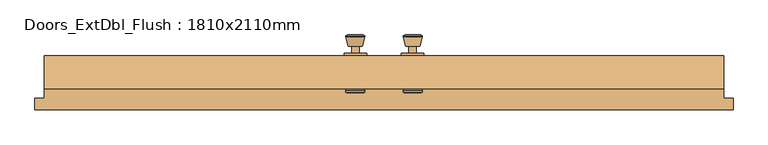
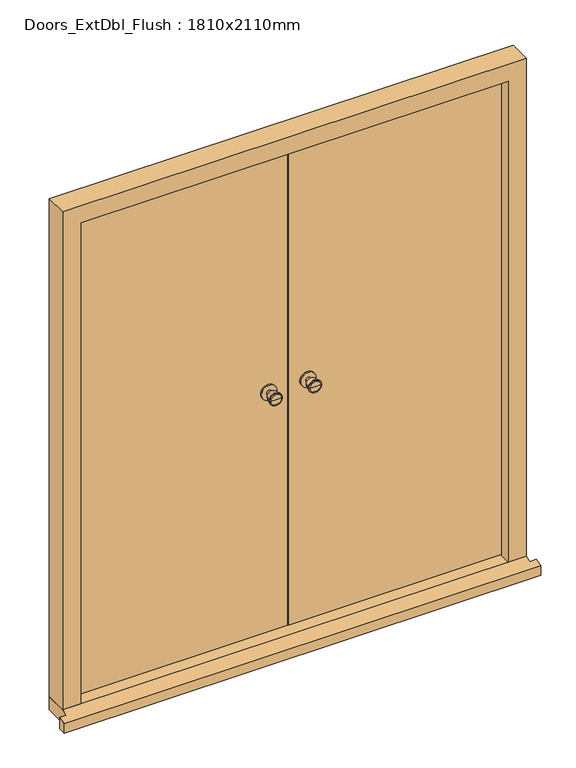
"""IFC4 building model written with IfcOpenShell, lengths in millimetres: door geometry, Doors_ExtDbl_Flush : 1810x2110mm."""

from ifc_helpers import new_model, si_unit, point, frame, frame_2d, origin, place, context, project, spatial, polyline, circle_curve, trimmed, segment, composite_curve, outline, extrude, faceted_brep, source, transform, mapped, element, save
from ifc_brep_helpers import plane_surface, cylinder_surface, revolved_surface, advanced_brep


def doors_extdbl_flush_1810x2110mm_33a89c57(model_context):
    return source(origin(), model_context, "Body", "SolidModel", [
        advanced_brep(
        [(-76.5, -36.5, 1050.0), (-86.5, -36.5, 1050.0), (-66.5, -36.5, 1050.0), (-96.9758676, 12.5, 1050.0), (-76.5, 12.5, 1050.0), (-56.0241324, 12.5, 1050.0), (-101.5, 10.6721319, 1050.0), (-51.5, 10.6721319, 1050.0), (-101.5, 7.2084537, 1050.0), (-51.5, 7.2084537, 1050.0), (-95.136236, -17.5, 1050.0), (-57.863764, -17.5, 1050.0), (-86.5, -17.5, 1050.0), (-66.5, -17.5, 1050.0)],
        [
            (0, 1),
            (1, 2, circle_curve(frame((-76.5, -36.5, 1050.0), z_axis=(0.0, -1.0, 0.0), x_axis=(1.0, 0.0, 0.0)), 10.0)),
            (2, 0),
            (2, 1, circle_curve(frame((-76.5, -36.5, 1050.0), z_axis=(0.0, -1.0, 0.0), x_axis=(1.0, 0.0, 0.0)), 10.0)),
            (3, 4),
            (4, 5),
            (5, 3, circle_curve(frame((-76.5, 12.5, 1050.0), z_axis=(0.0, 1.0, 0.0), x_axis=(1.0, 0.0, 0.0)), 20.4758676)),
            (3, 5, circle_curve(frame((-76.5, 12.5, 1050.0), z_axis=(0.0, 1.0, 0.0), x_axis=(1.0, 0.0, 0.0)), 20.4758676)),
            (6, 3),
            (5, 7),
            (7, 6, circle_curve(frame((-76.5, 10.6721319, 1050.0), z_axis=(0.0, 1.0, 0.0), x_axis=(1.0, 0.0, 0.0)), 25.0)),
            (6, 7, circle_curve(frame((-76.5, 10.6721319, 1050.0), z_axis=(0.0, 1.0, 0.0), x_axis=(1.0, 0.0, 0.0)), 25.0)),
            (8, 6),
            (7, 9),
            (9, 8, circle_curve(frame((-76.5, 7.2084537, 1050.0), z_axis=(0.0, 1.0, 0.0), x_axis=(1.0, 0.0, 0.0)), 25.0)),
            (8, 9, circle_curve(frame((-76.5, 7.2084537, 1050.0), z_axis=(0.0, 1.0, 0.0), x_axis=(1.0, 0.0, 0.0)), 25.0)),
            (10, 8),
            (9, 11),
            (11, 10, circle_curve(frame((-76.5, -17.5, 1050.0), z_axis=(0.0, 1.0, 0.0), x_axis=(1.0, 0.0, 0.0)), 18.636236)),
            (10, 11, circle_curve(frame((-76.5, -17.5, 1050.0), z_axis=(0.0, 1.0, 0.0), x_axis=(1.0, 0.0, 0.0)), 18.636236)),
            (12, 10),
            (11, 13),
            (13, 12, circle_curve(frame((-76.5, -17.5, 1050.0), z_axis=(0.0, 1.0, 0.0), x_axis=(1.0, 0.0, 0.0)), 10.0)),
            (12, 13, circle_curve(frame((-76.5, -17.5, 1050.0), z_axis=(0.0, 1.0, 0.0), x_axis=(1.0, 0.0, 0.0)), 10.0)),
            (1, 12),
            (13, 2),
        ],
        [
            plane_surface(frame((-76.5, -36.5, 1050.0), z_axis=(0.0, -1.0, 0.0), x_axis=(1.0, 0.0, 0.0))),
            plane_surface(frame((-76.5, 12.5, 1050.0), z_axis=(0.0, 1.0, 0.0), x_axis=(1.0, 0.0, 0.0))),
            revolved_surface(polyline([(-56.0241324, 12.5, 1050.0), (-51.5, 10.6721319, 1050.0)]), (-76.5, -36.5, 1050.0), (0.0, -1.0, 0.0)),
            cylinder_surface(frame((-76.5, -36.5, 1050.0), z_axis=(0.0, -1.0, 0.0), x_axis=(1.0, 0.0, 0.0)), 25.0),
            revolved_surface(polyline([(-51.5, 7.2084537, 1050.0), (-57.863764, -17.5, 1050.0)]), (-76.5, -36.5, 1050.0), (0.0, -1.0, 0.0)),
            plane_surface(frame((-76.5, -17.5, 1050.0), z_axis=(0.0, -1.0, 0.0), x_axis=(1.0, 0.0, 0.0))),
            cylinder_surface(frame((-76.5, -36.5, 1050.0), z_axis=(0.0, -1.0, 0.0), x_axis=(1.0, 0.0, 0.0)), 10.0),
        ],
        [
            (0, [[1, 2, 3]]),
            (0, [[-3, 4, -1]]),
            (1, [[5, 6, 7]]),
            (1, [[-6, -5, 8]]),
            (2, [[9, -7, 10, 11]]),
            (2, [[-10, -8, -9, 12]]),
            (3, [[13, -11, 14, 15]]),
            (3, [[-14, -12, -13, 16]]),
            (4, [[17, -15, 18, 19]]),
            (4, [[-18, -16, -17, 20]]),
            (5, [[21, -19, 22, 23]]),
            (5, [[-22, -20, -21, 24]]),
            (6, [[25, -23, 26, -2]]),
            (6, [[-26, -24, -25, -4]]),
        ],
    ),
        extrude(outline(composite_curve([segment(trimmed(circle_curve(frame_2d((1050.0, -76.5)), 30.0), [point((1050.0, -46.5))], [point((1050.0, -106.5))], False, "CARTESIAN"), True, "CONTINUOUS"), segment(trimmed(circle_curve(frame_2d((1050.0, -76.5)), 30.0), [point((1050.0, -106.5))], [point((1050.0, -46.5))], False, "CARTESIAN"), True, "CONTINUOUS")], self_intersect=False)), frame((0.0, -42.5, 0.0), z_axis=(0.0, 1.0, 0.0), x_axis=(0.0, 0.0, 1.0)), (0.0, 0.0, 1.0), 6.0),
        advanced_brep(
        [(-76.5, -92.5, 1050.0), (-66.5, -92.5, 1050.0), (-86.5, -92.5, 1050.0), (-96.9758676, -141.5, 1050.0), (-56.0241324, -141.5, 1050.0), (-76.5, -141.5, 1050.0), (-101.5, -139.6721319, 1050.0), (-51.5, -139.6721319, 1050.0), (-101.5, -136.2084537, 1050.0), (-51.5, -136.2084537, 1050.0), (-95.136236, -111.5, 1050.0), (-57.863764, -111.5, 1050.0), (-86.5, -111.5, 1050.0), (-66.5, -111.5, 1050.0)],
        [
            (0, 1),
            (1, 2, circle_curve(frame((-76.5, -92.5, 1050.0), z_axis=(0.0, 1.0, 0.0), x_axis=(1.0, 0.0, 0.0)), 10.0)),
            (2, 0),
            (2, 1, circle_curve(frame((-76.5, -92.5, 1050.0), z_axis=(0.0, 1.0, 0.0), x_axis=(1.0, 0.0, 0.0)), 10.0)),
            (3, 4, circle_curve(frame((-76.5, -141.5, 1050.0), z_axis=(0.0, -1.0, 0.0), x_axis=(1.0, 0.0, 0.0)), 20.4758676)),
            (4, 5),
            (5, 3),
            (4, 3, circle_curve(frame((-76.5, -141.5, 1050.0), z_axis=(0.0, -1.0, 0.0), x_axis=(1.0, 0.0, 0.0)), 20.4758676)),
            (6, 7, circle_curve(frame((-76.5, -139.6721319, 1050.0), z_axis=(0.0, -1.0, 0.0), x_axis=(1.0, 0.0, 0.0)), 25.0)),
            (7, 4),
            (3, 6),
            (7, 6, circle_curve(frame((-76.5, -139.6721319, 1050.0), z_axis=(0.0, -1.0, 0.0), x_axis=(1.0, 0.0, 0.0)), 25.0)),
            (8, 9, circle_curve(frame((-76.5, -136.2084537, 1050.0), z_axis=(0.0, -1.0, 0.0), x_axis=(1.0, 0.0, 0.0)), 25.0)),
            (9, 7),
            (6, 8),
            (9, 8, circle_curve(frame((-76.5, -136.2084537, 1050.0), z_axis=(0.0, -1.0, 0.0), x_axis=(1.0, 0.0, 0.0)), 25.0)),
            (10, 11, circle_curve(frame((-76.5, -111.5, 1050.0), z_axis=(0.0, -1.0, 0.0), x_axis=(1.0, 0.0, 0.0)), 18.636236)),
            (11, 9),
            (8, 10),
            (11, 10, circle_curve(frame((-76.5, -111.5, 1050.0), z_axis=(0.0, -1.0, 0.0), x_axis=(1.0, 0.0, 0.0)), 18.636236)),
            (12, 13, circle_curve(frame((-76.5, -111.5, 1050.0), z_axis=(0.0, -1.0, 0.0), x_axis=(1.0, 0.0, 0.0)), 10.0)),
            (13, 11),
            (10, 12),
            (13, 12, circle_curve(frame((-76.5, -111.5, 1050.0), z_axis=(0.0, -1.0, 0.0), x_axis=(1.0, 0.0, 0.0)), 10.0)),
            (1, 13),
            (12, 2),
        ],
        [
            plane_surface(frame((-76.5, -92.5, 1050.0), z_axis=(0.0, 1.0, 0.0), x_axis=(1.0, 0.0, 0.0))),
            plane_surface(frame((-76.5, -141.5, 1050.0), z_axis=(0.0, -1.0, 0.0), x_axis=(1.0, 0.0, 0.0))),
            revolved_surface(polyline([(-56.0241324, -141.5, 1050.0), (-51.5, -139.6721319, 1050.0)]), (-76.5, -92.5, 1050.0), (0.0, 1.0, 0.0)),
            cylinder_surface(frame((-76.5, -92.5, 1050.0), z_axis=(0.0, 1.0, 0.0), x_axis=(1.0, 0.0, 0.0)), 25.0),
            revolved_surface(polyline([(-51.5, -136.2084537, 1050.0), (-57.863764, -111.5, 1050.0)]), (-76.5, -92.5, 1050.0), (0.0, 1.0, 0.0)),
            plane_surface(frame((-76.5, -111.5, 1050.0), z_axis=(0.0, 1.0, 0.0), x_axis=(1.0, 0.0, 0.0))),
            cylinder_surface(frame((-76.5, -92.5, 1050.0), z_axis=(0.0, 1.0, 0.0), x_axis=(1.0, 0.0, 0.0)), 10.0),
        ],
        [
            (0, [[1, 2, 3]]),
            (0, [[-3, 4, -1]]),
            (1, [[5, 6, 7]]),
            (1, [[8, -7, -6]]),
            (2, [[9, 10, -5, 11]]),
            (2, [[12, -11, -8, -10]]),
            (3, [[13, 14, -9, 15]]),
            (3, [[16, -15, -12, -14]]),
            (4, [[17, 18, -13, 19]]),
            (4, [[20, -19, -16, -18]]),
            (5, [[21, 22, -17, 23]]),
            (5, [[24, -23, -20, -22]]),
            (6, [[-2, 25, -21, 26]]),
            (6, [[-4, -26, -24, -25]]),
        ],
    ),
        extrude(outline(composite_curve([segment(trimmed(circle_curve(frame_2d((1050.0, -76.5)), 30.0), [point((1050.0, -46.5))], [point((1050.0, -106.5))], False, "CARTESIAN"), True, "CONTINUOUS"), segment(trimmed(circle_curve(frame_2d((1050.0, -76.5)), 30.0), [point((1050.0, -106.5))], [point((1050.0, -46.5))], False, "CARTESIAN"), True, "CONTINUOUS")], self_intersect=False)), frame((0.0, -92.5, 0.0), z_axis=(0.0, 1.0, 0.0), x_axis=(0.0, 0.0, 1.0)), (0.0, 0.0, 1.0), 6.0),
        advanced_brep(
        [(76.5, -36.5, 1050.0), (66.5, -36.5, 1050.0), (86.5, -36.5, 1050.0), (96.9758676, 12.5, 1050.0), (56.0241324, 12.5, 1050.0), (76.5, 12.5, 1050.0), (101.5, 10.6721319, 1050.0), (51.5, 10.6721319, 1050.0), (101.5, 7.2084537, 1050.0), (51.5, 7.2084537, 1050.0), (95.136236, -17.5, 1050.0), (57.863764, -17.5, 1050.0), (86.5, -17.5, 1050.0), (66.5, -17.5, 1050.0)],
        [
            (0, 1),
            (1, 2, circle_curve(frame((76.5, -36.5, 1050.0), z_axis=(0.0, -1.0, 0.0), x_axis=(-1.0, 0.0, 0.0)), 10.0)),
            (2, 0),
            (2, 1, circle_curve(frame((76.5, -36.5, 1050.0), z_axis=(0.0, -1.0, 0.0), x_axis=(-1.0, 0.0, 0.0)), 10.0)),
            (3, 4, circle_curve(frame((76.5, 12.5, 1050.0), z_axis=(0.0, 1.0, 0.0), x_axis=(-1.0, 0.0, 0.0)), 20.4758676)),
            (4, 5),
            (5, 3),
            (4, 3, circle_curve(frame((76.5, 12.5, 1050.0), z_axis=(0.0, 1.0, 0.0), x_axis=(-1.0, 0.0, 0.0)), 20.4758676)),
            (6, 7, circle_curve(frame((76.5, 10.6721319, 1050.0), z_axis=(0.0, 1.0, 0.0), x_axis=(-1.0, 0.0, 0.0)), 25.0)),
            (7, 4),
            (3, 6),
            (7, 6, circle_curve(frame((76.5, 10.6721319, 1050.0), z_axis=(0.0, 1.0, 0.0), x_axis=(-1.0, 0.0, 0.0)), 25.0)),
            (8, 9, circle_curve(frame((76.5, 7.2084537, 1050.0), z_axis=(0.0, 1.0, 0.0), x_axis=(-1.0, 0.0, 0.0)), 25.0)),
            (9, 7),
            (6, 8),
            (9, 8, circle_curve(frame((76.5, 7.2084537, 1050.0), z_axis=(0.0, 1.0, 0.0), x_axis=(-1.0, 0.0, 0.0)), 25.0)),
            (10, 11, circle_curve(frame((76.5, -17.5, 1050.0), z_axis=(0.0, 1.0, 0.0), x_axis=(-1.0, 0.0, 0.0)), 18.636236)),
            (11, 9),
            (8, 10),
            (11, 10, circle_curve(frame((76.5, -17.5, 1050.0), z_axis=(0.0, 1.0, 0.0), x_axis=(-1.0, 0.0, 0.0)), 18.636236)),
            (12, 13, circle_curve(frame((76.5, -17.5, 1050.0), z_axis=(0.0, 1.0, 0.0), x_axis=(-1.0, 0.0, 0.0)), 10.0)),
            (13, 11),
            (10, 12),
            (13, 12, circle_curve(frame((76.5, -17.5, 1050.0), z_axis=(0.0, 1.0, 0.0), x_axis=(-1.0, 0.0, 0.0)), 10.0)),
            (1, 13),
            (12, 2),
        ],
        [
            plane_surface(frame((76.5, -36.5, 1050.0), z_axis=(0.0, -1.0, 0.0), x_axis=(-1.0, 0.0, 0.0))),
            plane_surface(frame((76.5, 12.5, 1050.0), z_axis=(0.0, 1.0, 0.0), x_axis=(-1.0, 0.0, 0.0))),
            revolved_surface(polyline([(56.0241324, 12.5, 1050.0), (51.5, 10.6721319, 1050.0)]), (76.5, -36.5, 1050.0), (0.0, -1.0, 0.0)),
            cylinder_surface(frame((76.5, -36.5, 1050.0), z_axis=(0.0, -1.0, 0.0), x_axis=(-1.0, 0.0, 0.0)), 25.0),
            revolved_surface(polyline([(51.5, 7.2084537, 1050.0), (57.863764, -17.5, 1050.0)]), (76.5, -36.5, 1050.0), (0.0, -1.0, 0.0)),
            plane_surface(frame((76.5, -17.5, 1050.0), z_axis=(0.0, -1.0, 0.0), x_axis=(-1.0, 0.0, 0.0))),
            cylinder_surface(frame((76.5, -36.5, 1050.0), z_axis=(0.0, -1.0, 0.0), x_axis=(-1.0, 0.0, 0.0)), 10.0),
        ],
        [
            (0, [[1, 2, 3]]),
            (0, [[-3, 4, -1]]),
            (1, [[5, 6, 7]]),
            (1, [[8, -7, -6]]),
            (2, [[9, 10, -5, 11]]),
            (2, [[12, -11, -8, -10]]),
            (3, [[13, 14, -9, 15]]),
            (3, [[16, -15, -12, -14]]),
            (4, [[17, 18, -13, 19]]),
            (4, [[20, -19, -16, -18]]),
            (5, [[21, 22, -17, 23]]),
            (5, [[24, -23, -20, -22]]),
            (6, [[-2, 25, -21, 26]]),
            (6, [[-4, -26, -24, -25]]),
        ],
    ),
        extrude(outline(composite_curve([segment(trimmed(circle_curve(frame_2d((1050.0, 76.5)), 30.0), [point((1050.0, 46.5))], [point((1050.0, 106.5))], False, "CARTESIAN"), True, "CONTINUOUS"), segment(trimmed(circle_curve(frame_2d((1050.0, 76.5)), 30.0), [point((1050.0, 106.5))], [point((1050.0, 46.5))], False, "CARTESIAN"), True, "CONTINUOUS")], self_intersect=False)), frame((0.0, -42.5, 0.0), z_axis=(0.0, 1.0, 0.0), x_axis=(0.0, 0.0, 1.0)), (0.0, 0.0, 1.0), 6.0),
        advanced_brep(
        [(76.5, -92.5, 1050.0), (86.5, -92.5, 1050.0), (66.5, -92.5, 1050.0), (96.9758676, -141.5, 1050.0), (76.5, -141.5, 1050.0), (56.0241324, -141.5, 1050.0), (101.5, -139.6721319, 1050.0), (51.5, -139.6721319, 1050.0), (101.5, -136.2084537, 1050.0), (51.5, -136.2084537, 1050.0), (95.136236, -111.5, 1050.0), (57.863764, -111.5, 1050.0), (86.5, -111.5, 1050.0), (66.5, -111.5, 1050.0)],
        [
            (0, 1),
            (1, 2, circle_curve(frame((76.5, -92.5, 1050.0), z_axis=(0.0, 1.0, 0.0), x_axis=(-1.0, 0.0, 0.0)), 10.0)),
            (2, 0),
            (2, 1, circle_curve(frame((76.5, -92.5, 1050.0), z_axis=(0.0, 1.0, 0.0), x_axis=(-1.0, 0.0, 0.0)), 10.0)),
            (3, 4),
            (4, 5),
            (5, 3, circle_curve(frame((76.5, -141.5, 1050.0), z_axis=(0.0, -1.0, 0.0), x_axis=(-1.0, 0.0, 0.0)), 20.4758676)),
            (3, 5, circle_curve(frame((76.5, -141.5, 1050.0), z_axis=(0.0, -1.0, 0.0), x_axis=(-1.0, 0.0, 0.0)), 20.4758676)),
            (6, 3),
            (5, 7),
            (7, 6, circle_curve(frame((76.5, -139.6721319, 1050.0), z_axis=(0.0, -1.0, 0.0), x_axis=(-1.0, 0.0, 0.0)), 25.0)),
            (6, 7, circle_curve(frame((76.5, -139.6721319, 1050.0), z_axis=(0.0, -1.0, 0.0), x_axis=(-1.0, 0.0, 0.0)), 25.0)),
            (8, 6),
            (7, 9),
            (9, 8, circle_curve(frame((76.5, -136.2084537, 1050.0), z_axis=(0.0, -1.0, 0.0), x_axis=(-1.0, 0.0, 0.0)), 25.0)),
            (8, 9, circle_curve(frame((76.5, -136.2084537, 1050.0), z_axis=(0.0, -1.0, 0.0), x_axis=(-1.0, 0.0, 0.0)), 25.0)),
            (10, 8),
            (9, 11),
            (11, 10, circle_curve(frame((76.5, -111.5, 1050.0), z_axis=(0.0, -1.0, 0.0), x_axis=(-1.0, 0.0, 0.0)), 18.636236)),
            (10, 11, circle_curve(frame((76.5, -111.5, 1050.0), z_axis=(0.0, -1.0, 0.0), x_axis=(-1.0, 0.0, 0.0)), 18.636236)),
            (12, 10),
            (11, 13),
            (13, 12, circle_curve(frame((76.5, -111.5, 1050.0), z_axis=(0.0, -1.0, 0.0), x_axis=(-1.0, 0.0, 0.0)), 10.0)),
            (12, 13, circle_curve(frame((76.5, -111.5, 1050.0), z_axis=(0.0, -1.0, 0.0), x_axis=(-1.0, 0.0, 0.0)), 10.0)),
            (1, 12),
            (13, 2),
        ],
        [
            plane_surface(frame((76.5, -92.5, 1050.0), z_axis=(0.0, 1.0, 0.0), x_axis=(-1.0, 0.0, 0.0))),
            plane_surface(frame((76.5, -141.5, 1050.0), z_axis=(0.0, -1.0, 0.0), x_axis=(-1.0, 0.0, 0.0))),
            revolved_surface(polyline([(56.0241324, -141.5, 1050.0), (51.5, -139.6721319, 1050.0)]), (76.5, -92.5, 1050.0), (0.0, 1.0, 0.0)),
            cylinder_surface(frame((76.5, -92.5, 1050.0), z_axis=(0.0, 1.0, 0.0), x_axis=(-1.0, 0.0, 0.0)), 25.0),
            revolved_surface(polyline([(51.5, -136.2084537, 1050.0), (57.863764, -111.5, 1050.0)]), (76.5, -92.5, 1050.0), (0.0, 1.0, 0.0)),
            plane_surface(frame((76.5, -111.5, 1050.0), z_axis=(0.0, 1.0, 0.0), x_axis=(-1.0, 0.0, 0.0))),
            cylinder_surface(frame((76.5, -92.5, 1050.0), z_axis=(0.0, 1.0, 0.0), x_axis=(-1.0, 0.0, 0.0)), 10.0),
        ],
        [
            (0, [[1, 2, 3]]),
            (0, [[-3, 4, -1]]),
            (1, [[5, 6, 7]]),
            (1, [[-6, -5, 8]]),
            (2, [[9, -7, 10, 11]]),
            (2, [[-10, -8, -9, 12]]),
            (3, [[13, -11, 14, 15]]),
            (3, [[-14, -12, -13, 16]]),
            (4, [[17, -15, 18, 19]]),
            (4, [[-18, -16, -17, 20]]),
            (5, [[21, -19, 22, 23]]),
            (5, [[-22, -20, -21, 24]]),
            (6, [[25, -23, 26, -2]]),
            (6, [[-26, -24, -25, -4]]),
        ],
    ),
        extrude(outline(composite_curve([segment(trimmed(circle_curve(frame_2d((1050.0, 76.5)), 30.0), [point((1050.0, 46.5))], [point((1050.0, 106.5))], False, "CARTESIAN"), True, "CONTINUOUS"), segment(trimmed(circle_curve(frame_2d((1050.0, 76.5)), 30.0), [point((1050.0, 106.5))], [point((1050.0, 46.5))], False, "CARTESIAN"), True, "CONTINUOUS")], self_intersect=False)), frame((0.0, -92.5, 0.0), z_axis=(0.0, 1.0, 0.0), x_axis=(0.0, 0.0, 1.0)), (0.0, 0.0, 1.0), 6.0),
        faceted_brep([(834.5, -131.5, 54.5), (834.5, -89.5, 54.5), (856.5, -89.5, 54.5), (856.5, -42.5, 54.5), (905.0, -42.5, 54.5), (905.0, -131.5, 54.5), (905.0, -131.5, 2110.0), (-905.0, -131.5, 2110.0), (-905.0, -131.5, 54.5), (-834.5, -131.5, 54.5), (-834.5, -131.5, 2039.5), (834.5, -131.5, 2039.5), (905.0, -42.5, 2110.0), (856.5, -42.5, 2061.5), (-856.5, -42.5, 2061.5), (-856.5, -42.5, 54.5), (-905.0, -42.5, 54.5), (-905.0, -42.5, 2110.0), (856.5, -89.5, 2061.5), (834.5, -89.5, 2039.5), (-834.5, -89.5, 2039.5), (-834.5, -89.5, 54.5), (-856.5, -89.5, 54.5), (-856.5, -89.5, 2061.5)], [[[0, 1, 2, 3, 4, 5]], [[5, 6, 7, 8, 9, 10, 11, 0]], [[4, 12, 6, 5]], [[3, 13, 14, 15, 16, 17, 12, 4]], [[2, 18, 13, 3]], [[1, 19, 20, 21, 22, 23, 18, 2]], [[0, 11, 19, 1]], [[12, 17, 7, 6]], [[18, 23, 14, 13]], [[11, 10, 20, 19]], [[9, 8, 16, 15, 22, 21]], [[17, 16, 8, 7]], [[23, 22, 15, 14]], [[10, 9, 21, 20]]]),
        faceted_brep([(930.0, -186.5, 0.0), (930.0, -156.5, 0.0), (930.0, -156.5, 47.2703282), (930.0, -186.5, 38.5947221), (-930.0, -186.5, 38.5947221), (-930.0, -156.5, 47.2703282), (-930.0, -156.5, 0.0), (-930.0, -186.5, 0.0), (-905.0, -156.5, 0.0), (-905.0, -42.5, 0.0), (905.0, -42.5, 0.0), (905.0, -156.5, 0.0), (905.0, -156.5, 47.2703282), (905.0, -131.5, 54.5), (-905.0, -131.5, 54.5), (-905.0, -156.5, 47.2703282), (905.0, -42.5, 54.5), (-905.0, -42.5, 54.5)], [[[0, 1, 2, 3]], [[4, 5, 6, 7]], [[7, 6, 8, 9, 10, 11, 1, 0]], [[3, 4, 7, 0]], [[3, 2, 12, 13, 14, 15, 5, 4]], [[14, 13, 16, 17]], [[17, 16, 10, 9]], [[15, 14, 17, 9, 8]], [[8, 6, 5, 15]], [[11, 10, 16, 13, 12]], [[12, 2, 1, 11]]]),
        extrude(outline(polyline([(853.5, -42.5), (853.5, -86.5), (1.5, -86.5), (1.5, -42.5), (853.5, -42.5)])), frame((0.0, 0.0, 58.5), z_axis=(0.0, 0.0, 1.0), x_axis=(1.0, 0.0, 0.0)), (0.0, 0.0, 1.0), 2000.0),
        extrude(outline(polyline([(-1.5, -42.5), (-1.5, -86.5), (-853.5, -86.5), (-853.5, -42.5), (-1.5, -42.5)])), frame((0.0, 0.0, 58.5), z_axis=(0.0, 0.0, 1.0), x_axis=(1.0, 0.0, 0.0)), (0.0, 0.0, 1.0), 2000.0),
    ])


if __name__ == "__main__":
    model = new_model("IFC4")
    model_context = context("Model", 3, world=origin())
    ifc_project = project(units=[si_unit("LENGTHUNIT", "METRE", prefix="MILLI")], contexts=[model_context])
    site = spatial("IfcSite", under=ifc_project)
    building = spatial("IfcBuilding", under=site)
    placement = place(None, origin())
    doors_extdbl_flush_1810x2110mm_shape = doors_extdbl_flush_1810x2110mm_33a89c57(model_context)
    element("IfcDoor", 1, ObjectType="Doors_ExtDbl_Flush : 1810x2110mm", at=placement, inside=building, context=model_context, shape_type="MappedRepresentation", body=[
        mapped(doors_extdbl_flush_1810x2110mm_shape, transform((0.0, 0.0, 0.0), x_axis=(1.0, 0.0, 0.0), y_axis=(0.0, 1.0, 0.0), z_axis=(0.0, 0.0, 1.0))),
    ])
    save(model, "model.ifc")
